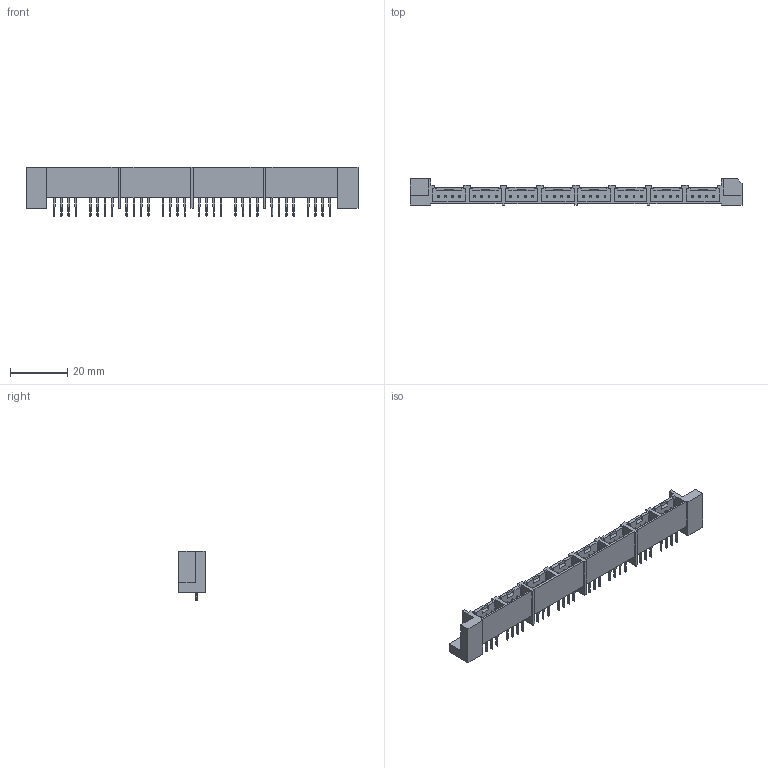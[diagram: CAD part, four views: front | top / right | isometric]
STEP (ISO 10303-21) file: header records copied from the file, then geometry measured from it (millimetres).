
FILE_DESCRIPTION (( 'STEP AP203' ), '1' );
FILE_NAME ('232D-32P1X-S15N-FA.STEP', '2022-02-22T07:33:46', ( '' ), ( '' ), 'SwSTEP 2.0', 'SolidWorks 2018', '' );
FILE_SCHEMA (( 'CONFIG_CONTROL_DESIGN' ));
Length unit declared in the file: millimetre
Products named in the file (1): 232D-32P1X-S15N-FA
Bounding box: 116.22 x 9.2 x 17.5 mm (x, y, z)
Volume: 4843.1 mm3; surface area: 7535.3 mm2
Topology: 1 solids, 1 shells, 1239 faces, 3519 edges, 2346 vertices
Faces by surface type: plane 935, cylinder 304
Entity records: 40602 total; most frequent: CARTESIAN_POINT 9793, ORIENTED_EDGE 7038, DIRECTION 5583, EDGE_CURVE 3519, VECTOR 2655, LINE 2655, VERTEX_POINT 2346, AXIS2_PLACEMENT_3D 1464
